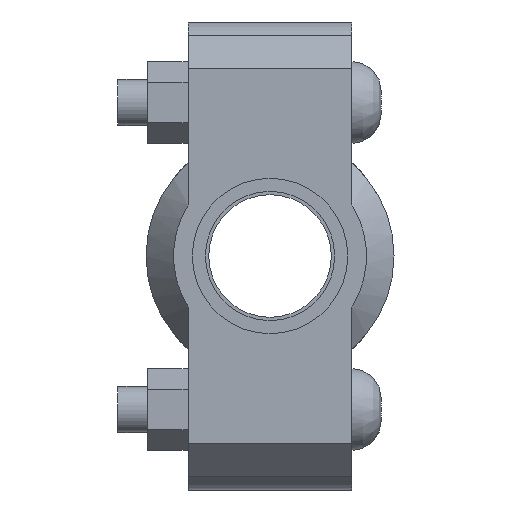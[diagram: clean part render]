
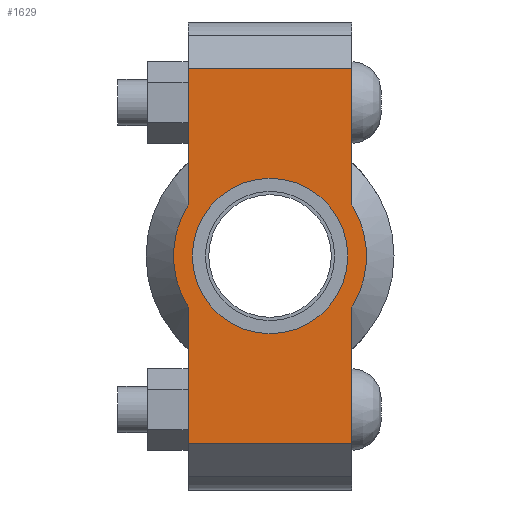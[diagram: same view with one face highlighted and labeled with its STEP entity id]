
A CAD part, left-side view. The second image highlights one B-rep face of the part: STEP entity #1629.
In plain terms, the highlighted planar face has unit normal (-1, 0, 0) as drawn and (0, 0, 1) by its records, which use the part's own axes.
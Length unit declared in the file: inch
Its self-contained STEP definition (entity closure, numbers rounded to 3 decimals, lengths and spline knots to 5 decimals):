
#184=LINE('',#2817,#281);
#199=LINE('',#2876,#296);
#207=LINE('',#2906,#304);
#209=LINE('',#2909,#306);
#210=LINE('',#2914,#307);
#211=LINE('',#2915,#308);
#281=VECTOR('',#2289,0.3937);
#296=VECTOR('',#2324,0.3937);
#304=VECTOR('',#2344,0.3937);
#306=VECTOR('',#2348,0.3937);
#307=VECTOR('',#2353,0.3937);
#308=VECTOR('',#2354,0.3937);
#372=FACE_BOUND('',#549,.T.);
#440=FACE_OUTER_BOUND('',#548,.T.);
#548=EDGE_LOOP('',(#1330,#1331,#1332,#1333,#1334,#1335,#1336,#1337));
#549=EDGE_LOOP('',(#1338));
#631=CIRCLE('',#1857,0.83);
#655=CIRCLE('',#1909,1.031);
#656=CIRCLE('',#1910,1.031);
#727=VERTEX_POINT('',#2643);
#768=VERTEX_POINT('',#2814);
#769=VERTEX_POINT('',#2816);
#790=VERTEX_POINT('',#2871);
#791=VERTEX_POINT('',#2875);
#800=VERTEX_POINT('',#2901);
#801=VERTEX_POINT('',#2905);
#802=VERTEX_POINT('',#2911);
#803=VERTEX_POINT('',#2913);
#891=EDGE_CURVE('',#727,#727,#631,.T.);
#948=EDGE_CURVE('',#769,#768,#184,.T.);
#973=EDGE_CURVE('',#791,#790,#199,.T.);
#986=EDGE_CURVE('',#801,#800,#207,.T.);
#988=EDGE_CURVE('',#801,#768,#209,.T.);
#989=EDGE_CURVE('',#800,#802,#655,.T.);
#990=EDGE_CURVE('',#802,#803,#210,.T.);
#991=EDGE_CURVE('',#791,#803,#211,.T.);
#992=EDGE_CURVE('',#790,#769,#656,.T.);
#1330=ORIENTED_EDGE('',*,*,#988,.F.);
#1331=ORIENTED_EDGE('',*,*,#986,.T.);
#1332=ORIENTED_EDGE('',*,*,#989,.T.);
#1333=ORIENTED_EDGE('',*,*,#990,.T.);
#1334=ORIENTED_EDGE('',*,*,#991,.F.);
#1335=ORIENTED_EDGE('',*,*,#973,.T.);
#1336=ORIENTED_EDGE('',*,*,#992,.T.);
#1337=ORIENTED_EDGE('',*,*,#948,.T.);
#1338=ORIENTED_EDGE('',*,*,#891,.T.);
#1469=PLANE('',#1908);
#1629=ADVANCED_FACE('',(#440,#372),#1469,.T.);
#1857=AXIS2_PLACEMENT_3D('',#2645,#2179,#2180);
#1908=AXIS2_PLACEMENT_3D('',#2910,#2349,#2350);
#1909=AXIS2_PLACEMENT_3D('',#2912,#2351,#2352);
#1910=AXIS2_PLACEMENT_3D('',#2916,#2355,#2356);
#2179=DIRECTION('center_axis',(0.,0.,-1.));
#2180=DIRECTION('ref_axis',(-1.,0.,0.));
#2289=DIRECTION('',(-1.,0.,0.));
#2324=DIRECTION('',(-1.,0.,0.));
#2344=DIRECTION('',(1.,0.,0.));
#2348=DIRECTION('',(0.,1.,0.));
#2349=DIRECTION('center_axis',(0.,0.,1.));
#2350=DIRECTION('ref_axis',(1.,0.,0.));
#2351=DIRECTION('center_axis',(0.,0.,1.));
#2352=DIRECTION('ref_axis',(-1.,0.,0.));
#2353=DIRECTION('',(1.,0.,0.));
#2354=DIRECTION('',(0.,-1.,0.));
#2355=DIRECTION('center_axis',(0.,0.,1.));
#2356=DIRECTION('ref_axis',(-1.,0.,0.));
#2643=CARTESIAN_POINT('',(0.83,0.,0.94));
#2645=CARTESIAN_POINT('Origin',(0.,0.,0.94));
#2814=CARTESIAN_POINT('',(-2.,0.875,0.94));
#2816=CARTESIAN_POINT('',(-0.54529,0.875,0.94));
#2817=CARTESIAN_POINT('',(2.5,0.875,0.94));
#2871=CARTESIAN_POINT('',(0.54529,0.875,0.94));
#2875=CARTESIAN_POINT('',(2.,0.875,0.94));
#2876=CARTESIAN_POINT('',(2.5,0.875,0.94));
#2901=CARTESIAN_POINT('',(-0.54529,-0.875,0.94));
#2905=CARTESIAN_POINT('',(-2.,-0.875,0.94));
#2906=CARTESIAN_POINT('',(-2.5,-0.875,0.94));
#2909=CARTESIAN_POINT('',(-2.,0.4375,0.94));
#2910=CARTESIAN_POINT('Origin',(0.,0.,
0.94));
#2911=CARTESIAN_POINT('',(0.54529,-0.875,0.94));
#2912=CARTESIAN_POINT('Origin',(0.,0.,0.94));
#2913=CARTESIAN_POINT('',(2.,-0.875,0.94));
#2914=CARTESIAN_POINT('',(-2.5,-0.875,0.94));
#2915=CARTESIAN_POINT('',(2.,-0.4375,0.94));
#2916=CARTESIAN_POINT('Origin',(0.,0.,0.94));
